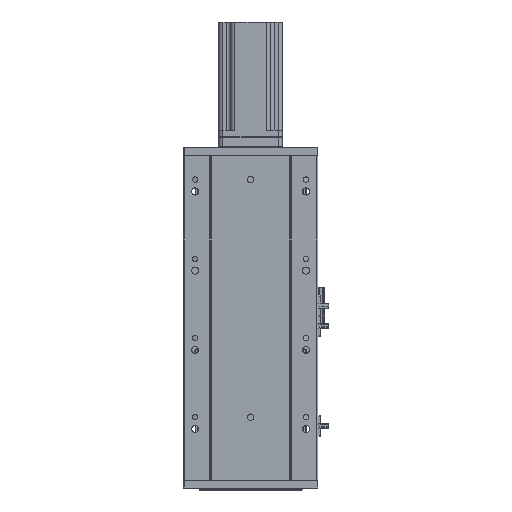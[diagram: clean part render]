
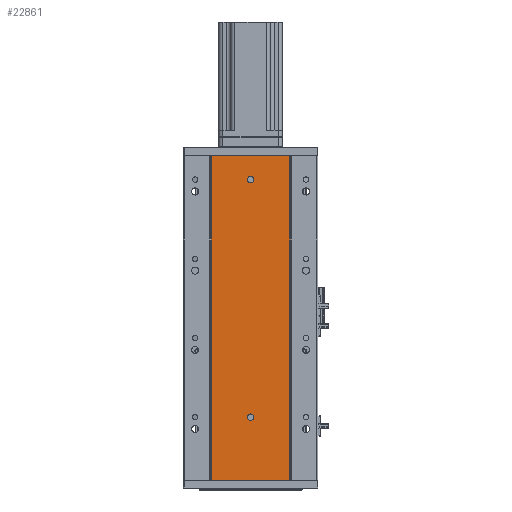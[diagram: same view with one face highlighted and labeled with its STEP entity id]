
A CAD part, front view. The second image highlights one B-rep face of the part: STEP entity #22861.
In plain terms, the highlighted planar face has unit normal (0, -1, 0).
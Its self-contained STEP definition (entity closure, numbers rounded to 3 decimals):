
#450 = EDGE_CURVE ( 'NONE', #9780, #34009, #1166, .T. ) ;
#1166 = CIRCLE ( 'NONE', #4360, 4. ) ;
#1361 = ORIENTED_EDGE ( 'NONE', *, *, #44377, .F. ) ;
#3156 = PLANE ( 'NONE',  #47164 ) ;
#3590 = DIRECTION ( 'NONE',  ( 1., 0., 0. ) ) ;
#4360 = AXIS2_PLACEMENT_3D ( 'NONE', #56872, #51246, #10832 ) ;
#5682 = EDGE_LOOP ( 'NONE', ( #1361, #63420 ) ) ;
#6514 = DIRECTION ( 'NONE',  ( 0., 0., -1. ) ) ;
#6701 = CARTESIAN_POINT ( 'NONE',  ( 86.97, 79.476, 410. ) ) ;
#7163 = CARTESIAN_POINT ( 'NONE',  ( 185.97, 79.476, 410. ) ) ;
#7456 = CIRCLE ( 'NONE', #18549, 4. ) ;
#7531 = CIRCLE ( 'NONE', #23323, 4. ) ;
#7926 = VERTEX_POINT ( 'NONE', #49739 ) ;
#8957 = FACE_BOUND ( 'NONE', #5682, .T. ) ;
#9780 = VERTEX_POINT ( 'NONE', #37815 ) ;
#9847 = VERTEX_POINT ( 'NONE', #28656 ) ;
#9858 = CARTESIAN_POINT ( 'NONE',  ( 86.97, 79.476, 0. ) ) ;
#10832 = DIRECTION ( 'NONE',  ( 0., 0., -1. ) ) ;
#11578 = CARTESIAN_POINT ( 'NONE',  ( 0., 79.476, 410. ) ) ;
#12471 = CARTESIAN_POINT ( 'NONE',  ( 185.97, 79.476, 273.333 ) ) ;
#12819 = LINE ( 'NONE', #13795, #32037 ) ;
#13795 = CARTESIAN_POINT ( 'NONE',  ( 0., 79.476, 410. ) ) ;
#14681 = CARTESIAN_POINT ( 'NONE',  ( 136.47, 79.476, 380. ) ) ;
#15225 = ORIENTED_EDGE ( 'NONE', *, *, #62734, .F. ) ;
#16429 = ORIENTED_EDGE ( 'NONE', *, *, #36740, .F. ) ;
#17934 = DIRECTION ( 'NONE',  ( 0., -1., 0. ) ) ;
#17954 = EDGE_CURVE ( 'NONE', #47869, #22843, #12819, .T. ) ;
#18549 = AXIS2_PLACEMENT_3D ( 'NONE', #33752, #17934, #44065 ) ;
#19336 = EDGE_LOOP ( 'NONE', ( #47050, #16429, #56795, #63547 ) ) ;
#22843 = VERTEX_POINT ( 'NONE', #53589 ) ;
#22861 = ADVANCED_FACE ( 'NONE', ( #53754, #8957, #42579 ), #3156, .F. ) ;
#23323 = AXIS2_PLACEMENT_3D ( 'NONE', #14681, #24973, #30107 ) ;
#24905 = DIRECTION ( 'NONE',  ( 1., 0., 0. ) ) ;
#24973 = DIRECTION ( 'NONE',  ( 0., -1., 0. ) ) ;
#26848 = CIRCLE ( 'NONE', #60543, 4. ) ;
#26854 = DIRECTION ( 'NONE',  ( 0., -1., 0. ) ) ;
#28656 = CARTESIAN_POINT ( 'NONE',  ( 185.97, 79.476, 0. ) ) ;
#29463 = ORIENTED_EDGE ( 'NONE', *, *, #55913, .F. ) ;
#30107 = DIRECTION ( 'NONE',  ( 0., 0., -1. ) ) ;
#31189 = EDGE_LOOP ( 'NONE', ( #15225, #29463 ) ) ;
#32037 = VECTOR ( 'NONE', #3590, 1000. ) ;
#33074 = CARTESIAN_POINT ( 'NONE',  ( 86.97, 79.476, 136.667 ) ) ;
#33752 = CARTESIAN_POINT ( 'NONE',  ( 136.47, 79.476, 80. ) ) ;
#34009 = VERTEX_POINT ( 'NONE', #64907 ) ;
#34950 = EDGE_CURVE ( 'NONE', #47869, #38538, #57253, .T. ) ;
#36589 = CARTESIAN_POINT ( 'NONE',  ( 86.97, 79.476, 0. ) ) ;
#36740 = EDGE_CURVE ( 'NONE', #22843, #9847, #37924, .T. ) ;
#37521 = CARTESIAN_POINT ( 'NONE',  ( 185.97, 79.476, 136.667 ) ) ;
#37815 = CARTESIAN_POINT ( 'NONE',  ( 136.47, 79.476, 84. ) ) ;
#37924 = B_SPLINE_CURVE_WITH_KNOTS ( 'NONE', 3,
 ( #7163, #12471, #37521, #48256 ),
 .UNSPECIFIED., .F., .F.,
 ( 4, 4 ),
 ( 0., 1. ),
 .UNSPECIFIED. ) ;
#38203 = CARTESIAN_POINT ( 'NONE',  ( 86.97, 79.476, 410. ) ) ;
#38538 = VERTEX_POINT ( 'NONE', #36589 ) ;
#38837 = DIRECTION ( 'NONE',  ( 0., 1., 0. ) ) ;
#42579 = FACE_OUTER_BOUND ( 'NONE', #19336, .T. ) ;
#44009 = DIRECTION ( 'NONE',  ( 0., 0., 1. ) ) ;
#44065 = DIRECTION ( 'NONE',  ( 0., 0., -1. ) ) ;
#44377 = EDGE_CURVE ( 'NONE', #34009, #9780, #7456, .T. ) ;
#46965 = VECTOR ( 'NONE', #24905, 1000. ) ;
#47050 = ORIENTED_EDGE ( 'NONE', *, *, #48479, .T. ) ;
#47164 = AXIS2_PLACEMENT_3D ( 'NONE', #11578, #38837, #44009 ) ;
#47869 = VERTEX_POINT ( 'NONE', #6701 ) ;
#48256 = CARTESIAN_POINT ( 'NONE',  ( 185.97, 79.476, 0. ) ) ;
#48479 = EDGE_CURVE ( 'NONE', #38538, #9847, #56518, .T. ) ;
#49739 = CARTESIAN_POINT ( 'NONE',  ( 136.47, 79.476, 384. ) ) ;
#49958 = VERTEX_POINT ( 'NONE', #52057 ) ;
#51246 = DIRECTION ( 'NONE',  ( 0., -1., 0. ) ) ;
#52057 = CARTESIAN_POINT ( 'NONE',  ( 136.47, 79.476, 376. ) ) ;
#53589 = CARTESIAN_POINT ( 'NONE',  ( 185.97, 79.476, 410. ) ) ;
#53754 = FACE_BOUND ( 'NONE', #31189, .T. ) ;
#55913 = EDGE_CURVE ( 'NONE', #7926, #49958, #7531, .T. ) ;
#56518 = LINE ( 'NONE', #65975, #46965 ) ;
#56795 = ORIENTED_EDGE ( 'NONE', *, *, #17954, .F. ) ;
#56872 = CARTESIAN_POINT ( 'NONE',  ( 136.47, 79.476, 80. ) ) ;
#57253 = B_SPLINE_CURVE_WITH_KNOTS ( 'NONE', 3,
 ( #38203, #63656, #33074, #9858 ),
 .UNSPECIFIED., .F., .F.,
 ( 4, 4 ),
 ( 0., 1. ),
 .UNSPECIFIED. ) ;
#60543 = AXIS2_PLACEMENT_3D ( 'NONE', #62979, #26854, #6514 ) ;
#62734 = EDGE_CURVE ( 'NONE', #49958, #7926, #26848, .T. ) ;
#62979 = CARTESIAN_POINT ( 'NONE',  ( 136.47, 79.476, 380. ) ) ;
#63420 = ORIENTED_EDGE ( 'NONE', *, *, #450, .F. ) ;
#63547 = ORIENTED_EDGE ( 'NONE', *, *, #34950, .T. ) ;
#63656 = CARTESIAN_POINT ( 'NONE',  ( 86.97, 79.476, 273.333 ) ) ;
#64907 = CARTESIAN_POINT ( 'NONE',  ( 136.47, 79.476, 76. ) ) ;
#65975 = CARTESIAN_POINT ( 'NONE',  ( 0., 79.476, 0. ) ) ;
